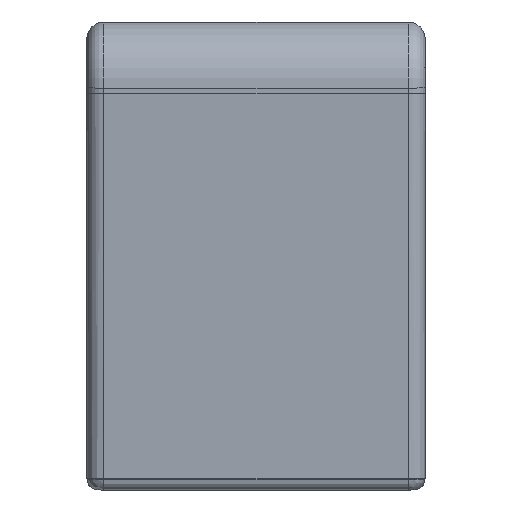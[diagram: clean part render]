
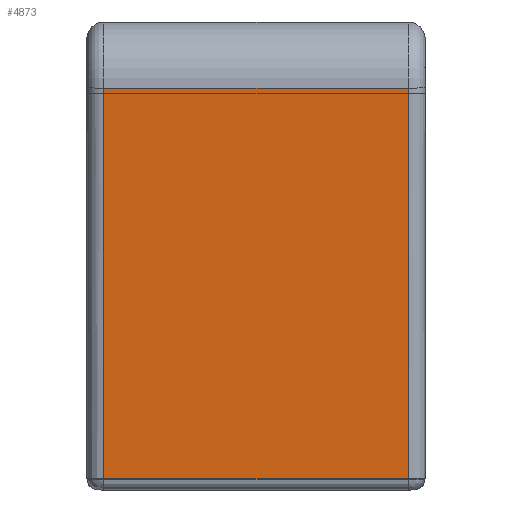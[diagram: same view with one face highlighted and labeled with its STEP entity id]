
A CAD part, left-side view. The second image highlights one B-rep face of the part: STEP entity #4873.
In plain terms, the highlighted planar face has unit normal (-0.998, 0, -0.067).
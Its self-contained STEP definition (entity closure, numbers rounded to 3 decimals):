
#164 = AXIS2_PLACEMENT_3D ( 'NONE', #2411, #2412, #2413 ) ;
#516 = EDGE_CURVE ( 'NONE', #5052, #5088, #3913, .T. ) ;
#517 = EDGE_CURVE ( 'NONE', #5088, #5086, #3917, .T. ) ;
#518 = EDGE_CURVE ( 'NONE', #5086, #5065, #3920, .T. ) ;
#519 = EDGE_CURVE ( 'NONE', #5052, #5065, #3924, .T. ) ;
#1293 = CARTESIAN_POINT ( 'NONE',  ( -517.388, 13.5, 28.632 ) ) ;
#1306 = CARTESIAN_POINT ( 'NONE',  ( -517.388, -13.5, 28.632 ) ) ;
#1327 = CARTESIAN_POINT ( 'NONE',  ( -515.063, -13.5, -6.067 ) ) ;
#1329 = CARTESIAN_POINT ( 'NONE',  ( -515.063, 13.5, -6.067 ) ) ;
#2410 = PLANE ( 'NONE',  #164 ) ;
#2411 = CARTESIAN_POINT ( 'NONE',  ( -515., 15., -7. ) ) ;
#2412 = DIRECTION ( 'NONE',  ( -0.998, 0., -0.067 ) ) ;
#2413 = DIRECTION ( 'NONE',  ( -0.067, 0., 0.998 ) ) ;
#2945 = EDGE_LOOP ( 'NONE', ( #3080, #3078, #3076, #3074 ) ) ;
#3074 = ORIENTED_EDGE ( 'NONE', *, *, #519, .F. ) ;
#3076 = ORIENTED_EDGE ( 'NONE', *, *, #518, .T. ) ;
#3078 = ORIENTED_EDGE ( 'NONE', *, *, #517, .T. ) ;
#3080 = ORIENTED_EDGE ( 'NONE', *, *, #516, .T. ) ;
#3913 = LINE ( 'NONE', #4005, #3915 ) ;
#3915 = VECTOR ( 'NONE', #4003, 1000. ) ;
#3917 = LINE ( 'NONE', #4001, #3919 ) ;
#3919 = VECTOR ( 'NONE', #3999, 1000. ) ;
#3920 = LINE ( 'NONE', #3997, #3922 ) ;
#3922 = VECTOR ( 'NONE', #3995, 1000. ) ;
#3924 = LINE ( 'NONE', #3993, #3926 ) ;
#3926 = VECTOR ( 'NONE', #3991, 1000. ) ;
#3991 = DIRECTION ( 'NONE',  ( 0., -1., 0. ) ) ;
#3993 = CARTESIAN_POINT ( 'NONE',  ( -517.388, 15., 28.632 ) ) ;
#3995 = DIRECTION ( 'NONE',  ( -0.067, 0., 0.998 ) ) ;
#3997 = CARTESIAN_POINT ( 'NONE',  ( -517.388, -13.5, 28.632 ) ) ;
#3999 = DIRECTION ( 'NONE',  ( 0., -1., 0. ) ) ;
#4001 = CARTESIAN_POINT ( 'NONE',  ( -515.063, 15., -6.067 ) ) ;
#4003 = DIRECTION ( 'NONE',  ( 0.067, 0., -0.998 ) ) ;
#4005 = CARTESIAN_POINT ( 'NONE',  ( -515., 13.5, -7. ) ) ;
#4448 = FACE_OUTER_BOUND ( 'NONE', #2945, .T. ) ;
#4873 = ADVANCED_FACE ( 'NONE', ( #4448 ), #2410, .T. ) ;
#5052 = VERTEX_POINT ( 'NONE', #1293 ) ;
#5065 = VERTEX_POINT ( 'NONE', #1306 ) ;
#5086 = VERTEX_POINT ( 'NONE', #1327 ) ;
#5088 = VERTEX_POINT ( 'NONE', #1329 ) ;
